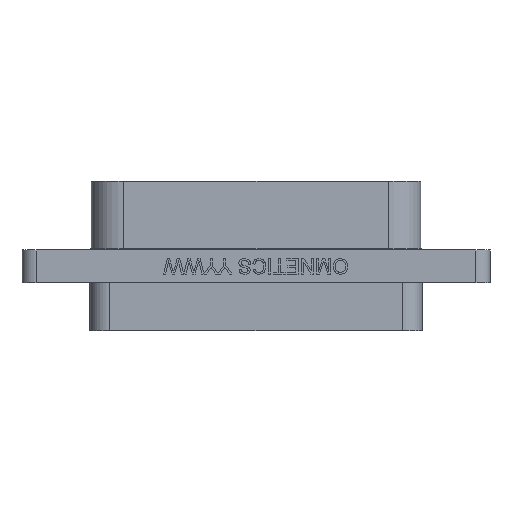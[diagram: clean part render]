
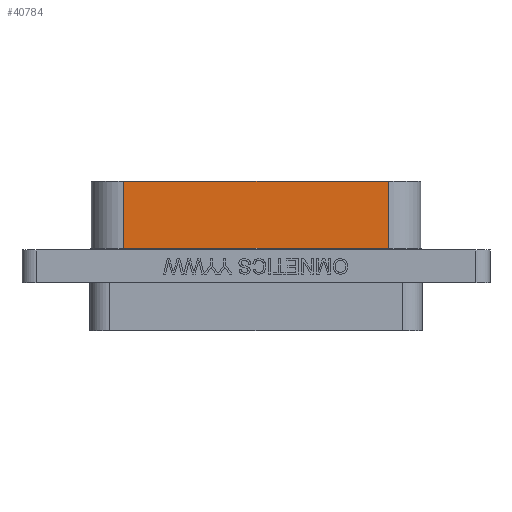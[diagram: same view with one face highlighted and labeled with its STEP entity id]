
A CAD part, front view. The second image highlights one B-rep face of the part: STEP entity #40784.
In plain terms, the highlighted planar face has unit normal (0, -1, 0).
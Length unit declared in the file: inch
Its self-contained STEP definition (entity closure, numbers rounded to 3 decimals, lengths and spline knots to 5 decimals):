
#1890 = CARTESIAN_POINT ( 'NONE',  ( 0.375, -0.1176, 0.235 ) ) ;
#4962 = DIRECTION ( 'NONE',  ( 0., 0., -1. ) ) ;
#6941 = EDGE_CURVE ( 'NONE', #40011, #41105, #41420, .T. ) ;
#7111 = ORIENTED_EDGE ( 'NONE', *, *, #25127, .F. ) ;
#7853 = CARTESIAN_POINT ( 'NONE',  ( -0.6225, -0.1176, 0.235 ) ) ;
#10955 = DIRECTION ( 'NONE',  ( 1., 0., 0. ) ) ;
#14430 = CARTESIAN_POINT ( 'NONE',  ( -0.375, -0.1176, 0.045 ) ) ;
#14897 = VECTOR ( 'NONE', #10955, 39.37008 ) ;
#15701 = VECTOR ( 'NONE', #24412, 39.37008 ) ;
#16725 = EDGE_CURVE ( 'NONE', #35375, #19357, #20654, .T. ) ;
#17316 = ORIENTED_EDGE ( 'NONE', *, *, #40394, .T. ) ;
#17981 = ORIENTED_EDGE ( 'NONE', *, *, #6941, .F. ) ;
#18416 = DIRECTION ( 'NONE',  ( 0., 0., -1. ) ) ;
#19306 = LINE ( 'NONE', #22645, #43344 ) ;
#19357 = VERTEX_POINT ( 'NONE', #36554 ) ;
#20654 = LINE ( 'NONE', #40896, #15701 ) ;
#22645 = CARTESIAN_POINT ( 'NONE',  ( -0.375, -0.1176, 0.235 ) ) ;
#24091 = FACE_OUTER_BOUND ( 'NONE', #29624, .T. ) ;
#24412 = DIRECTION ( 'NONE',  ( 1., 0., 0. ) ) ;
#25127 = EDGE_CURVE ( 'NONE', #41105, #19357, #41461, .T. ) ;
#26460 = VECTOR ( 'NONE', #4962, 39.37008 ) ;
#28048 = PLANE ( 'NONE',  #35666 ) ;
#28469 = CARTESIAN_POINT ( 'NONE',  ( 0.375, -0.1176, 0.235 ) ) ;
#29624 = EDGE_LOOP ( 'NONE', ( #17316, #43230, #7111, #17981 ) ) ;
#29947 = CARTESIAN_POINT ( 'NONE',  ( -0.375, -0.1176, 0.235 ) ) ;
#33929 = DIRECTION ( 'NONE',  ( 0., 1., 0. ) ) ;
#35375 = VERTEX_POINT ( 'NONE', #14430 ) ;
#35666 = AXIS2_PLACEMENT_3D ( 'NONE', #7853, #33929, #41012 ) ;
#36554 = CARTESIAN_POINT ( 'NONE',  ( 0.375, -0.1176, 0.045 ) ) ;
#40011 = VERTEX_POINT ( 'NONE', #29947 ) ;
#40394 = EDGE_CURVE ( 'NONE', #40011, #35375, #19306, .T. ) ;
#40555 = CARTESIAN_POINT ( 'NONE',  ( -0.6225, -0.1176, 0.235 ) ) ;
#40784 = ADVANCED_FACE ( 'NONE', ( #24091 ), #28048, .F. ) ;
#40896 = CARTESIAN_POINT ( 'NONE',  ( 0.375, -0.1176, 0.045 ) ) ;
#41012 = DIRECTION ( 'NONE',  ( 0., 0., 1. ) ) ;
#41105 = VERTEX_POINT ( 'NONE', #1890 ) ;
#41420 = LINE ( 'NONE', #40555, #14897 ) ;
#41461 = LINE ( 'NONE', #28469, #26460 ) ;
#43230 = ORIENTED_EDGE ( 'NONE', *, *, #16725, .T. ) ;
#43344 = VECTOR ( 'NONE', #18416, 39.37008 ) ;
